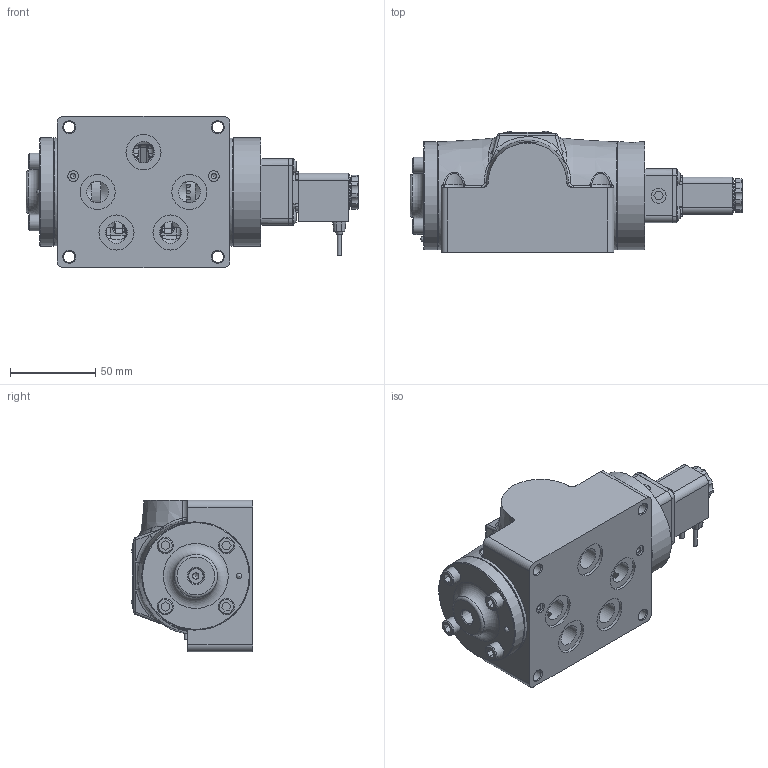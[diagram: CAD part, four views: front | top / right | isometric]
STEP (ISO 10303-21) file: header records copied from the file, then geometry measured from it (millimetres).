
FILE_DESCRIPTION(/* description */ (''),/* implementation_level */ '2;1');
FILE_NAME(/* name */ 'D:\Website Files\stp\Valves\Standard\ESR\ESR4PMZ.stp',/* time_stamp */ '2016-06-03T07:51:39-04:00',/* author */ ('RMcKenna'),/* organization */ (''),/* preprocessor_version */ 'ST-DEVELOPER v15.6',/* originating_system */ 'Autodesk Inventor 2015',/* authorisation */ '');
FILE_SCHEMA (('AUTOMOTIVE_DESIGN { 1 0 10303 214 3 1 1 }'));
Products named in the file (1): Part5
Bounding box: 195.03 x 71.21 x 88.9 mm (x, y, z)
Volume: 551826.1 mm3; surface area: 127311.7 mm2
Topology: 1 solids, 35 shells, 2164 faces, 5193 edges, 3240 vertices
Faces by surface type: plane 791, cylinder 541, cone 333, bspline 322, torus 154, sphere 23
Full cylindrical faces by diameter (mm): 1.3 x1, 1.397 x1, 1.5 x2, 2.007 x2, 2.032 x4, 2.07 x2, 2.261 x2, 2.35 x4, 2.388 x1, 2.54 x2, 2.778 x2, 2.8 x1, 2.819 x1, 3 x4, 3.048 x5, 3.175 x8, 3.4 x1, 3.683 x5, 3.962 x2, 4.191 x2, 4.305 x1, 4.826 x4, 4.953 x1, 4.978 x8, 5.15 x4, 5.156 x4, 5.5 x1, 6.35 x10, 6.553 x1, 6.629 x4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
Entity records: 74263 total; most frequent: CARTESIAN_POINT 26140, ORIENTED_EDGE 9414, DIRECTION 8793, EDGE_CURVE 4705, AXIS2_PLACEMENT_3D 3419, VERTEX_POINT 3092, EDGE_LOOP 2715, FACE_OUTER_BOUND 2163
